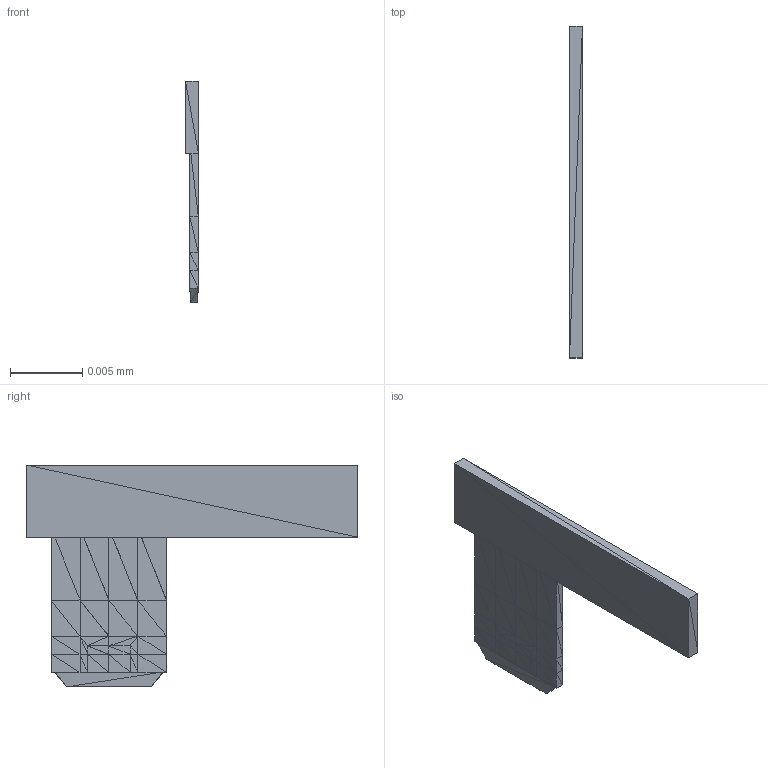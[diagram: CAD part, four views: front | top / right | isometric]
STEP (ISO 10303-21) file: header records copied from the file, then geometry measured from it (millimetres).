
FILE_DESCRIPTION((' Model'),'2;1');
FILE_NAME(' Shape Model','2026-05-29T17:26:20',(''),( ''),' ','','Unknown');
FILE_SCHEMA(('AUTOMOTIVE_DESIGN { 1 0 10303 214 1 1 1 1 }'));
Length unit declared in the file: millimetre
Products named in the file (9):  STEP translator 7.5 1;  STEP translator 7.5 1.1;  STEP translator 7.5 1.2;  STEP translator 7.5 1.3;  STEP translator 7.5 1.4;  STEP translator 7.5 1.5;  STEP translator 7.5 1.6;  STEP translator 7.5 1.7;  STEP translator 7.5 1.8
Assembly tree (8 placements, depth 2):
   STEP translator 7.5 1
     STEP translator 7.5 1.1
     STEP translator 7.5 1.2
     STEP translator 7.5 1.3
     STEP translator 7.5 1.4
     STEP translator 7.5 1.5
     STEP translator 7.5 1.6
     STEP translator 7.5 1.7
     STEP translator 7.5 1.8
Bounding box: 0 x 0.02 x 0.02 mm (x, y, z)
Surface area: 0 mm2 (no closed solid volume)
Topology: 0 solids, 8 shells, 328 faces, 684 edges, 320 vertices
Faces by surface type: plane 328
Entity records: 16512 total; most frequent: CARTESIAN_POINT 3369, DIRECTION 2080, LINE 1406, VECTOR 1406, ORIENTED_EDGE 1372, PCURVE 1372, DEFINITIONAL_REPRESENTATION 1372, EDGE_CURVE 686
